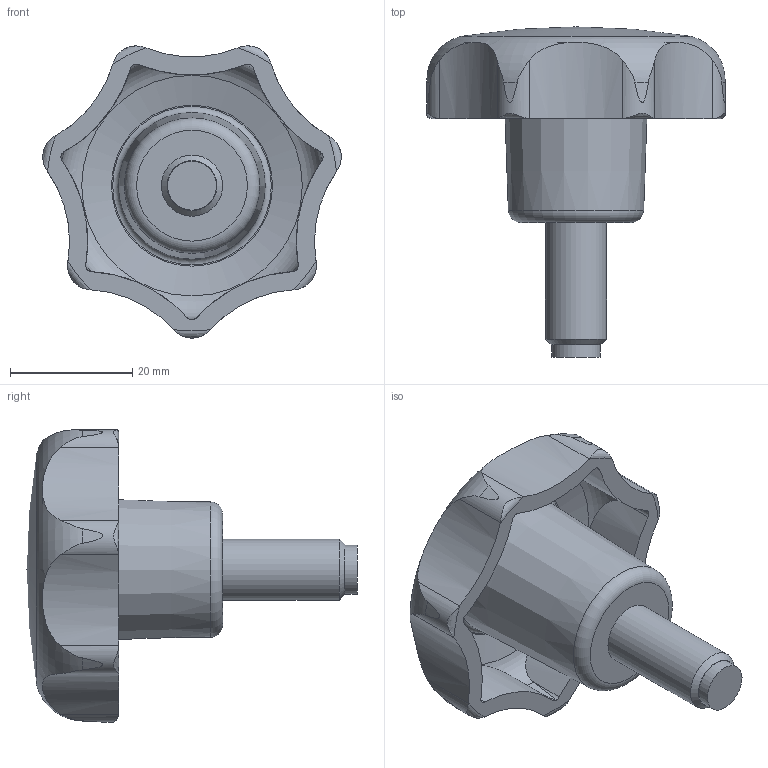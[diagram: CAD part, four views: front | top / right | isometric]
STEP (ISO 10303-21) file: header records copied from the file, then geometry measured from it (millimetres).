
FILE_DESCRIPTION( ( 'STEP AP203' ), '1' );
FILE_NAME( 'C:/Temp/Ganter_Step_05_03_2020/data/2_2/gn6336_10/Star knob GN 6336.10-50-M10-20-MS.stp', '2020-03-05T12:04:14', ( 'License CC BY-ND 4.0' ), ( 'CADENAS' ), ' ', 'PARTsolutions', ' ' );
FILE_SCHEMA( ( 'CONFIG_CONTROL_DESIGN' ) );
Length unit declared in the file: millimetre
Products named in the file (1): _Star knob GN 6336.10-50-M10-20-MS
Bounding box: 48.81 x 54 x 47.78 mm (x, y, z)
Volume: 22240.4 mm3; surface area: 8938.6 mm2
Topology: 1 solids, 1 shells, 64 faces, 189 edges, 129 vertices
Faces by surface type: cylinder 30, cone 17, torus 12, plane 4, sphere 1
Full cylindrical faces by diameter (mm): 8 x1, 10 x1
Entity records: 3108 total; most frequent: CARTESIAN_POINT 1546, ORIENTED_EDGE 346, DIRECTION 266, EDGE_CURVE 173, VERTEX_POINT 125, AXIS2_PLACEMENT_3D 119, B_SPLINE_CURVE_WITH_KNOTS 91, EDGE_LOOP 77
